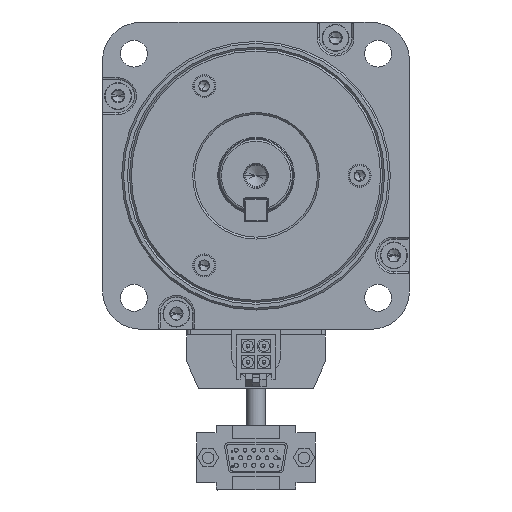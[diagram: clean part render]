
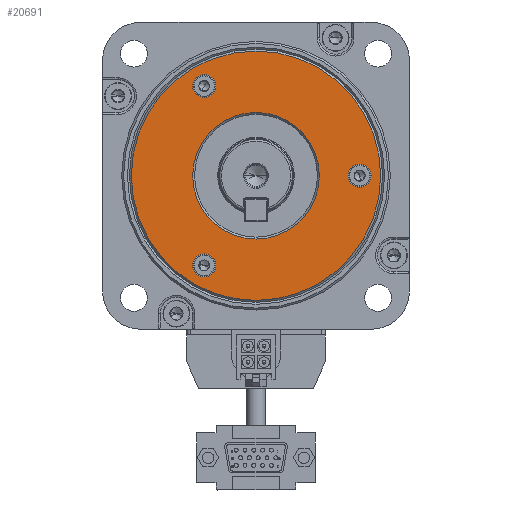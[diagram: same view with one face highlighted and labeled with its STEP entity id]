
A CAD part, front view. The second image highlights one B-rep face of the part: STEP entity #20691.
In plain terms, the highlighted planar face has unit normal (0, -1, 0) as drawn and (0, 0, -1) by its records, which use the part's own axes.
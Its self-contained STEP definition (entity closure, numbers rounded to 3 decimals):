
#19890=CARTESIAN_POINT('',(0.,27.,0.));
#19891=DIRECTION('',(0.,0.,-1.));
#19892=DIRECTION('',(-1.,0.,0.));
#19893=AXIS2_PLACEMENT_3D('',#19890,#19891,#19892);
#19898=CARTESIAN_POINT('',(0.,27.,0.));
#19899=DIRECTION('',(0.,0.,-1.));
#19900=DIRECTION('',(1.,0.,0.));
#19901=AXIS2_PLACEMENT_3D('',#19898,#19899,#19900);
#19906=CARTESIAN_POINT('',(23.383,-13.5,0.));
#19907=DIRECTION('',(0.,0.,-1.));
#19908=DIRECTION('',(-1.,0.,0.));
#19909=AXIS2_PLACEMENT_3D('',#19906,#19907,#19908);
#19914=CARTESIAN_POINT('',(23.383,-13.5,0.));
#19915=DIRECTION('',(0.,0.,-1.));
#19916=DIRECTION('',(1.,0.,0.));
#19917=AXIS2_PLACEMENT_3D('',#19914,#19915,#19916);
#19922=CARTESIAN_POINT('',(-23.383,-13.5,0.));
#19923=DIRECTION('',(0.,0.,-1.));
#19924=DIRECTION('',(-1.,0.,0.));
#19925=AXIS2_PLACEMENT_3D('',#19922,#19923,#19924);
#19930=CARTESIAN_POINT('',(-23.383,-13.5,0.));
#19931=DIRECTION('',(0.,0.,-1.));
#19932=DIRECTION('',(1.,0.,0.));
#19933=AXIS2_PLACEMENT_3D('',#19930,#19931,#19932);
#19938=CARTESIAN_POINT('',(0.,0.,
0.));
#19939=DIRECTION('',(0.,0.,1.));
#19940=DIRECTION('',(1.,0.,0.));
#19941=AXIS2_PLACEMENT_3D('',#19938,#19939,#19940);
#19946=CARTESIAN_POINT('',(0.,0.,0.));
#19947=DIRECTION('',(0.,0.,1.));
#19948=DIRECTION('',(-1.,0.,0.));
#19949=AXIS2_PLACEMENT_3D('',#19946,#19947,#19948);
#19954=CARTESIAN_POINT('',(0.,0.,0.));
#19955=DIRECTION('',(0.,0.,-1.));
#19956=DIRECTION('',(1.,0.,0.));
#19957=AXIS2_PLACEMENT_3D('',#19954,#19955,#19956);
#19962=CARTESIAN_POINT('',(0.,0.,
0.));
#19963=DIRECTION('',(0.,0.,-1.));
#19964=DIRECTION('',(-1.,0.,0.));
#19965=AXIS2_PLACEMENT_3D('',#19962,#19963,#19964);
#20592=CARTESIAN_POINT('',(-3.,27.,0.));
#20593=CARTESIAN_POINT('',(3.,27.,0.));
#20594=VERTEX_POINT('',#20592);
#20595=VERTEX_POINT('',#20593);
#20596=CARTESIAN_POINT('',(20.383,-13.5,0.));
#20597=CARTESIAN_POINT('',(26.383,-13.5,0.));
#20598=VERTEX_POINT('',#20596);
#20599=VERTEX_POINT('',#20597);
#20600=CARTESIAN_POINT('',(-26.383,-13.5,0.));
#20601=CARTESIAN_POINT('',(-20.383,-13.5,0.));
#20602=VERTEX_POINT('',#20600);
#20603=VERTEX_POINT('',#20601);
#20624=CARTESIAN_POINT('',(16.5,0.,0.));
#20625=CARTESIAN_POINT('',(-16.5,0.,0.));
#20626=VERTEX_POINT('',#20624);
#20627=VERTEX_POINT('',#20625);
#20640=CARTESIAN_POINT('',(32.5,0.,0.));
#20641=CARTESIAN_POINT('',(-32.5,0.,0.));
#20642=VERTEX_POINT('',#20640);
#20643=VERTEX_POINT('',#20641);
#20656=CARTESIAN_POINT('',(0.,0.,0.));
#20657=DIRECTION('',(0.,0.,1.));
#20658=DIRECTION('',(1.,0.,0.));
#20659=AXIS2_PLACEMENT_3D('',#20656,#20657,#20658);
#20660=PLANE('',#20659);
#20662=ORIENTED_EDGE('',*,*,#20661,.F.);
#20664=ORIENTED_EDGE('',*,*,#20663,.F.);
#20665=EDGE_LOOP('',(#20662,#20664));
#20666=FACE_OUTER_BOUND('',#20665,.F.);
#20668=ORIENTED_EDGE('',*,*,#20667,.T.);
#20670=ORIENTED_EDGE('',*,*,#20669,.T.);
#20671=EDGE_LOOP('',(#20668,#20670));
#20672=FACE_BOUND('',#20671,.F.);
#20674=ORIENTED_EDGE('',*,*,#20673,.T.);
#20676=ORIENTED_EDGE('',*,*,#20675,.T.);
#20677=EDGE_LOOP('',(#20674,#20676));
#20678=FACE_BOUND('',#20677,.F.);
#20680=ORIENTED_EDGE('',*,*,#20679,.F.);
#20682=ORIENTED_EDGE('',*,*,#20681,.F.);
#20683=EDGE_LOOP('',(#20680,#20682));
#20684=FACE_BOUND('',#20683,.F.);
#20686=ORIENTED_EDGE('',*,*,#20685,.T.);
#20688=ORIENTED_EDGE('',*,*,#20687,.T.);
#20689=EDGE_LOOP('',(#20686,#20688));
#20690=FACE_BOUND('',#20689,.F.);
#19894=CIRCLE('',#19893,3.);
#19902=CIRCLE('',#19901,3.);
#19910=CIRCLE('',#19909,3.);
#19918=CIRCLE('',#19917,3.);
#19926=CIRCLE('',#19925,3.);
#19934=CIRCLE('',#19933,3.);
#19942=CIRCLE('',#19941,16.5);
#19950=CIRCLE('',#19949,16.5);
#19958=CIRCLE('',#19957,32.5);
#19966=CIRCLE('',#19965,32.5);
#20661=EDGE_CURVE('',#20642,#20643,#19958,.T.);
#20663=EDGE_CURVE('',#20643,#20642,#19966,.T.);
#20667=EDGE_CURVE('',#20598,#20599,#19910,.T.);
#20669=EDGE_CURVE('',#20599,#20598,#19918,.T.);
#20673=EDGE_CURVE('',#20602,#20603,#19926,.T.);
#20675=EDGE_CURVE('',#20603,#20602,#19934,.T.);
#20679=EDGE_CURVE('',#20626,#20627,#19942,.T.);
#20681=EDGE_CURVE('',#20627,#20626,#19950,.T.);
#20685=EDGE_CURVE('',#20594,#20595,#19894,.T.);
#20687=EDGE_CURVE('',#20595,#20594,#19902,.T.);
#20691=ADVANCED_FACE('',(#20666,#20672,#20678,#20684,#20690),#20660,.F.);
